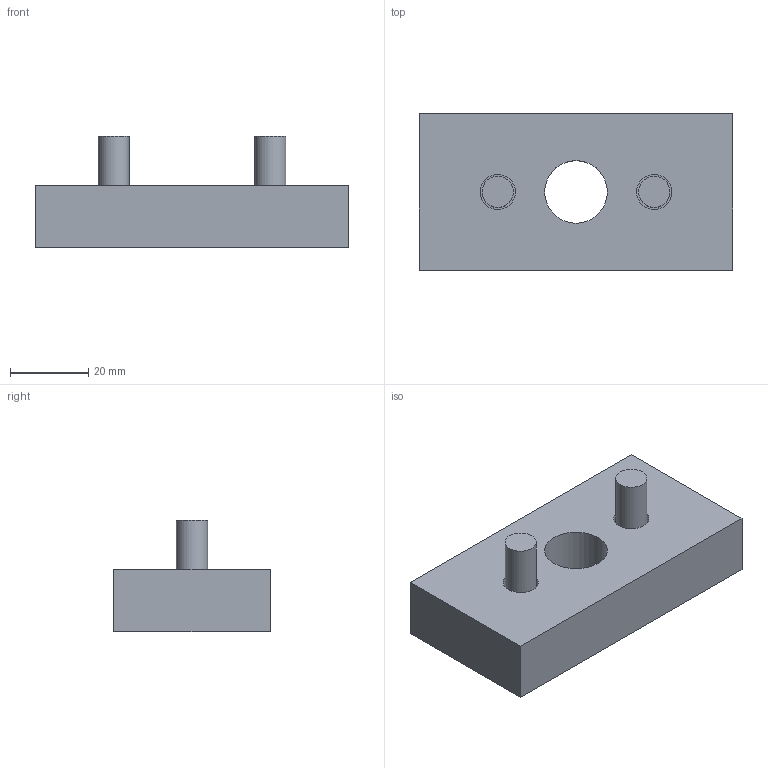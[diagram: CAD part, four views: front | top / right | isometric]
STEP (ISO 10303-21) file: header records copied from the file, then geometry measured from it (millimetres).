
FILE_DESCRIPTION((''),'2;1');
FILE_NAME('C:\Documents and Settings\古川典政\My Documents\Inventor\HP用\MasterData\ACCESSORY\M8\LFB-4080-8.stp','2008-08-05T16:56:44',(''),(''),'Autodesk Inventor 2008','Autodesk Inventor 2008','');
FILE_SCHEMA(('CONFIG_CONTROL_DESIGN'));
Length unit declared in the file: millimetre
Products named in the file (4): LFB-4080-8; LFB-4080-81; LFB-4080-82; LFB-4080-83
Assembly tree (3 placements, depth 2):
  LFB-4080-8
    LFB-4080-81
    LFB-4080-82
    LFB-4080-83
Bounding box: 80 x 40 x 28.6 mm (x, y, z)
Volume: 48529.3 mm3; surface area: 13752 mm2
Topology: 3 solids, 3 shells, 23 faces, 40 edges, 27 vertices
Faces by surface type: plane 13, cylinder 6, bspline 4
Full cylindrical faces by diameter (mm): 8 x2, 9 x1, 13 x2, 14 x1
Entity records: 658 total; most frequent: CARTESIAN_POINT 140, DIRECTION 100, ORIENTED_EDGE 60, AXIS2_PLACEMENT_3D 44, EDGE_LOOP 42, EDGE_CURVE 30, VERTEX_POINT 26, FACE_OUTER_BOUND 23
